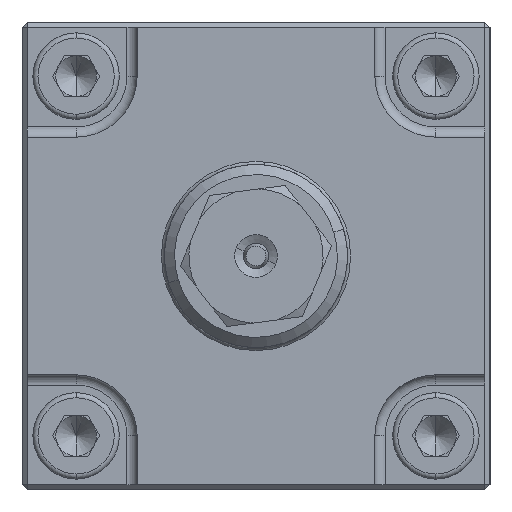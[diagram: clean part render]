
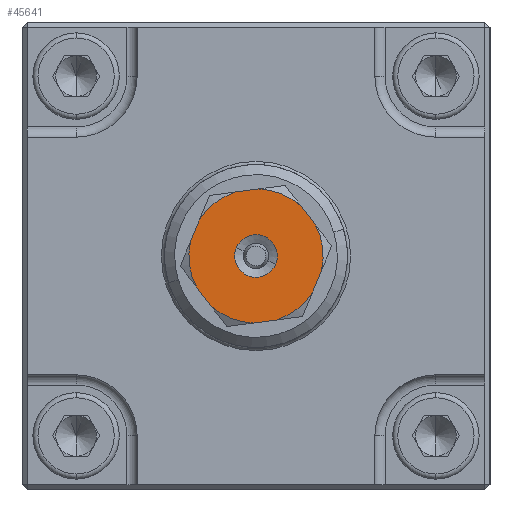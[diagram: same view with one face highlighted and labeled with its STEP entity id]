
A CAD part, left-side view. The second image highlights one B-rep face of the part: STEP entity #45641.
In plain terms, the highlighted planar face has unit normal (-1, 0, 0).
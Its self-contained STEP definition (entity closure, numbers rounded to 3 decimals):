
#2 = CIRCLE ( 'NONE', #19530, 2.1 ) ;
#54 = CIRCLE ( 'NONE', #19961, 6.6 ) ;
#55 = CIRCLE ( 'NONE', #19963, 6.6 ) ;
#56 = CIRCLE ( 'NONE', #19964, 6.6 ) ;
#57 = CIRCLE ( 'NONE', #19965, 6.6 ) ;
#58 = CIRCLE ( 'NONE', #19966, 6.6 ) ;
#59 = CIRCLE ( 'NONE', #19967, 6.6 ) ;
#60 = CIRCLE ( 'NONE', #19968, 2.1 ) ;
#16908 = PLANE ( 'NONE',  #17095 ) ;
#16909 = CARTESIAN_POINT ( 'NONE',  ( -90., -0.477, 1.155 ) ) ;
#16910 = DIRECTION ( 'NONE',  ( 1., 0., 0. ) ) ;
#16911 = DIRECTION ( 'NONE',  ( 0., 0.924, 0.382 ) ) ;
#17088 = FACE_BOUND ( 'NONE', #53120, .T. ) ;
#17093 = FACE_OUTER_BOUND ( 'NONE', #53121, .T. ) ;
#17095 = AXIS2_PLACEMENT_3D ( 'NONE', #16909, #16910, #16911 ) ;
#19407 = CARTESIAN_POINT ( 'NONE',  ( -90., 0., 0. ) ) ;
#19408 = DIRECTION ( 'NONE',  ( -1., 0., 0. ) ) ;
#19409 = DIRECTION ( 'NONE',  ( 0., -0.924, -0.382 ) ) ;
#19530 = AXIS2_PLACEMENT_3D ( 'NONE', #19407, #19408, #19409 ) ;
#19961 = AXIS2_PLACEMENT_3D ( 'NONE', #20043, #20044, #20045 ) ;
#19963 = AXIS2_PLACEMENT_3D ( 'NONE', #20046, #20047, #20048 ) ;
#19964 = AXIS2_PLACEMENT_3D ( 'NONE', #20059, #20060, #20061 ) ;
#19965 = AXIS2_PLACEMENT_3D ( 'NONE', #20074, #20075, #20076 ) ;
#19966 = AXIS2_PLACEMENT_3D ( 'NONE', #20089, #20090, #20091 ) ;
#19967 = AXIS2_PLACEMENT_3D ( 'NONE', #20102, #20103, #20104 ) ;
#19968 = AXIS2_PLACEMENT_3D ( 'NONE', #20117, #20118, #20119 ) ;
#19969 = VECTOR ( 'NONE', #20123, 1000. ) ;
#19971 = VECTOR ( 'NONE', #20126, 1000. ) ;
#20043 = CARTESIAN_POINT ( 'NONE',  ( -90., 0., 0. ) ) ;
#20044 = DIRECTION ( 'NONE',  ( -1., 0., 0. ) ) ;
#20045 = DIRECTION ( 'NONE',  ( 0., -0.924, -0.382 ) ) ;
#20046 = CARTESIAN_POINT ( 'NONE',  ( -90., 0., 0. ) ) ;
#20047 = DIRECTION ( 'NONE',  ( -1., 0., 0. ) ) ;
#20048 = DIRECTION ( 'NONE',  ( 0., -0.924, -0.382 ) ) ;
#20059 = CARTESIAN_POINT ( 'NONE',  ( -90., 0., 0. ) ) ;
#20060 = DIRECTION ( 'NONE',  ( -1., 0., 0. ) ) ;
#20061 = DIRECTION ( 'NONE',  ( 0., -0.924, -0.382 ) ) ;
#20074 = CARTESIAN_POINT ( 'NONE',  ( -90., 0., 0. ) ) ;
#20075 = DIRECTION ( 'NONE',  ( -1., 0., 0. ) ) ;
#20076 = DIRECTION ( 'NONE',  ( 0., -0.924, -0.382 ) ) ;
#20089 = CARTESIAN_POINT ( 'NONE',  ( -90., 0., 0. ) ) ;
#20090 = DIRECTION ( 'NONE',  ( -1., 0., 0. ) ) ;
#20091 = DIRECTION ( 'NONE',  ( 0., -0.924, -0.382 ) ) ;
#20102 = CARTESIAN_POINT ( 'NONE',  ( -90., 0., 0. ) ) ;
#20103 = DIRECTION ( 'NONE',  ( -1., 0., 0. ) ) ;
#20104 = DIRECTION ( 'NONE',  ( 0., -0.924, -0.382 ) ) ;
#20117 = CARTESIAN_POINT ( 'NONE',  ( -90., 0., 0. ) ) ;
#20118 = DIRECTION ( 'NONE',  ( -1., 0., 0. ) ) ;
#20119 = DIRECTION ( 'NONE',  ( 0., -0.924, -0.382 ) ) ;
#20121 = LINE ( 'NONE', #20122, #19969 ) ;
#20122 = CARTESIAN_POINT ( 'NONE',  ( -90., -4.772, 4.457 ) ) ;
#20123 = DIRECTION ( 'NONE',  ( 0., -0.609, -0.793 ) ) ;
#20124 = LINE ( 'NONE', #20125, #19971 ) ;
#20125 = CARTESIAN_POINT ( 'NONE',  ( -90., 0.235, 6.526 ) ) ;
#20126 = DIRECTION ( 'NONE',  ( 0., -0.991, 0.131 ) ) ;
#22884 = VECTOR ( 'NONE', #23577, 1000. ) ;
#23256 = VECTOR ( 'NONE', #23567, 1000. ) ;
#23257 = VECTOR ( 'NONE', #23571, 1000. ) ;
#23258 = VECTOR ( 'NONE', #23574, 1000. ) ;
#23565 = LINE ( 'NONE', #23566, #23256 ) ;
#23566 = CARTESIAN_POINT ( 'NONE',  ( -90., 5.53, 3.637 ) ) ;
#23567 = DIRECTION ( 'NONE',  ( 0., -0.382, 0.924 ) ) ;
#23569 = LINE ( 'NONE', #23570, #23257 ) ;
#23570 = CARTESIAN_POINT ( 'NONE',  ( -90., 5.534, -3.466 ) ) ;
#23571 = DIRECTION ( 'NONE',  ( 0., 0.609, 0.793 ) ) ;
#23572 = LINE ( 'NONE', #23573, #23258 ) ;
#23573 = CARTESIAN_POINT ( 'NONE',  ( -90., -1.474, -6.361 ) ) ;
#23574 = DIRECTION ( 'NONE',  ( 0., 0.991, -0.131 ) ) ;
#23575 = LINE ( 'NONE', #23576, #22884 ) ;
#23576 = CARTESIAN_POINT ( 'NONE',  ( -90., -6.485, -1.327 ) ) ;
#23577 = DIRECTION ( 'NONE',  ( 0., 0.382, -0.924 ) ) ;
#29715 = CARTESIAN_POINT ( 'NONE',  ( -90., 1.941, 0.802 ) ) ;
#29716 = CARTESIAN_POINT ( 'NONE',  ( -90., -1.941, -0.802 ) ) ;
#35054 = VERTEX_POINT ( 'NONE', #62002 ) ;
#35055 = VERTEX_POINT ( 'NONE', #62003 ) ;
#35056 = VERTEX_POINT ( 'NONE', #62004 ) ;
#35057 = VERTEX_POINT ( 'NONE', #62005 ) ;
#35058 = VERTEX_POINT ( 'NONE', #62006 ) ;
#35059 = VERTEX_POINT ( 'NONE', #62007 ) ;
#35060 = VERTEX_POINT ( 'NONE', #62008 ) ;
#35061 = VERTEX_POINT ( 'NONE', #62009 ) ;
#35062 = VERTEX_POINT ( 'NONE', #62010 ) ;
#35063 = VERTEX_POINT ( 'NONE', #62011 ) ;
#35064 = VERTEX_POINT ( 'NONE', #62012 ) ;
#35065 = VERTEX_POINT ( 'NONE', #62013 ) ;
#45641 = ADVANCED_FACE ( 'NONE', ( #17088, #17093 ), #16908, .F. ) ;
#46217 = EDGE_CURVE ( 'NONE', #55458, #55459, #2, .T. ) ;
#46320 = EDGE_CURVE ( 'NONE', #35054, #35055, #54, .T. ) ;
#46321 = EDGE_CURVE ( 'NONE', #35057, #35056, #55, .T. ) ;
#46324 = EDGE_CURVE ( 'NONE', #35059, #35058, #56, .T. ) ;
#46327 = EDGE_CURVE ( 'NONE', #35061, #35060, #57, .T. ) ;
#46330 = EDGE_CURVE ( 'NONE', #35063, #35062, #58, .T. ) ;
#46333 = EDGE_CURVE ( 'NONE', #35065, #35064, #59, .T. ) ;
#46336 = EDGE_CURVE ( 'NONE', #55459, #55458, #60, .T. ) ;
#46337 = EDGE_CURVE ( 'NONE', #35054, #35056, #20121, .T. ) ;
#46338 = EDGE_CURVE ( 'NONE', #35065, #35055, #20124, .T. ) ;
#50511 = ORIENTED_EDGE ( 'NONE', *, *, #46337, .F. ) ;
#50512 = ORIENTED_EDGE ( 'NONE', *, *, #46336, .F. ) ;
#50513 = ORIENTED_EDGE ( 'NONE', *, *, #46338, .F. ) ;
#50514 = ORIENTED_EDGE ( 'NONE', *, *, #46217, .F. ) ;
#50515 = ORIENTED_EDGE ( 'NONE', *, *, #46320, .T. ) ;
#50516 = ORIENTED_EDGE ( 'NONE', *, *, #46333, .T. ) ;
#50517 = ORIENTED_EDGE ( 'NONE', *, *, #50589, .F. ) ;
#50518 = ORIENTED_EDGE ( 'NONE', *, *, #46330, .T. ) ;
#50519 = ORIENTED_EDGE ( 'NONE', *, *, #50590, .F. ) ;
#50520 = ORIENTED_EDGE ( 'NONE', *, *, #46327, .T. ) ;
#50521 = ORIENTED_EDGE ( 'NONE', *, *, #50591, .F. ) ;
#50522 = ORIENTED_EDGE ( 'NONE', *, *, #46324, .T. ) ;
#50523 = ORIENTED_EDGE ( 'NONE', *, *, #50592, .F. ) ;
#50525 = ORIENTED_EDGE ( 'NONE', *, *, #46321, .T. ) ;
#50589 = EDGE_CURVE ( 'NONE', #35063, #35064, #23565, .T. ) ;
#50590 = EDGE_CURVE ( 'NONE', #35061, #35062, #23569, .T. ) ;
#50591 = EDGE_CURVE ( 'NONE', #35059, #35060, #23572, .T. ) ;
#50592 = EDGE_CURVE ( 'NONE', #35057, #35058, #23575, .T. ) ;
#53120 = EDGE_LOOP ( 'NONE', ( #50512, #50514 ) ) ;
#53121 = EDGE_LOOP ( 'NONE', ( #50511, #50515, #50513, #50516, #50517, #50518, #50519, #50520, #50521, #50522, #50523, #50525 ) ) ;
#55458 = VERTEX_POINT ( 'NONE', #29715 ) ;
#55459 = VERTEX_POINT ( 'NONE', #29716 ) ;
#62002 = CARTESIAN_POINT ( 'NONE',  ( -90., -4.456, 4.869 ) ) ;
#62003 = CARTESIAN_POINT ( 'NONE',  ( -90., -0.28, 6.594 ) ) ;
#62004 = CARTESIAN_POINT ( 'NONE',  ( -90., -5.851, 3.054 ) ) ;
#62005 = CARTESIAN_POINT ( 'NONE',  ( -90., -6.445, -1.424 ) ) ;
#62006 = CARTESIAN_POINT ( 'NONE',  ( -90., -5.57, -3.54 ) ) ;
#62007 = CARTESIAN_POINT ( 'NONE',  ( -90., -1.989, -6.293 ) ) ;
#62008 = CARTESIAN_POINT ( 'NONE',  ( -90., 0.28, -6.594 ) ) ;
#62009 = CARTESIAN_POINT ( 'NONE',  ( -90., 4.456, -4.869 ) ) ;
#62010 = CARTESIAN_POINT ( 'NONE',  ( -90., 5.851, -3.054 ) ) ;
#62011 = CARTESIAN_POINT ( 'NONE',  ( -90., 6.445, 1.424 ) ) ;
#62012 = CARTESIAN_POINT ( 'NONE',  ( -90., 5.57, 3.54 ) ) ;
#62013 = CARTESIAN_POINT ( 'NONE',  ( -90., 1.989, 6.293 ) ) ;
